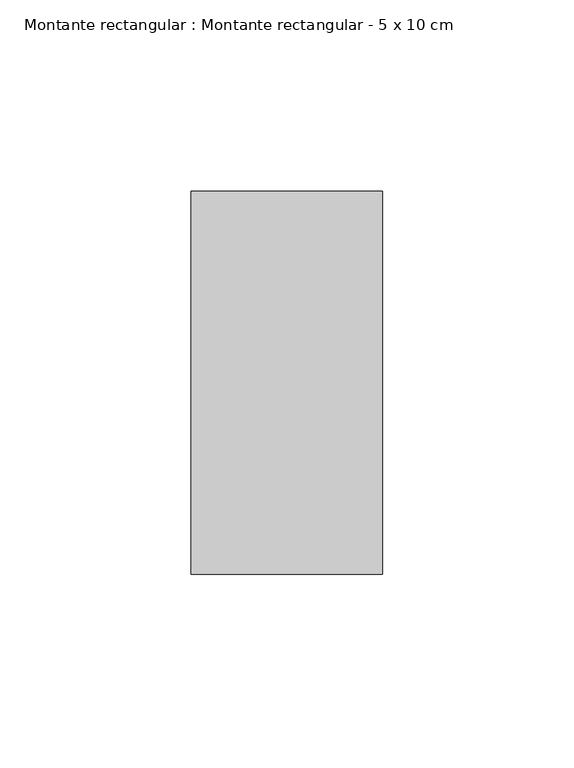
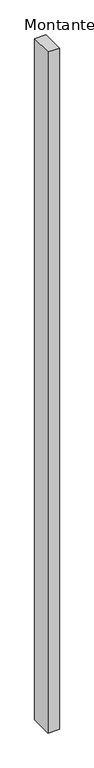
"""IFC4 building model written with IfcOpenShell, lengths in millimetres: member geometry, Montante rectangular : Montante rectangular - 5 x 10 cm."""

from ifc_helpers import new_model, si_unit, frame, origin, place, context, project, spatial, polyline, outline, extrude, source, transform, mapped, element, save


def montante_rectangular_montante_rectangular_5_x_10_cm_89af3980(model_context):
    return source(origin(), model_context, "Body", "SweptSolid", [
        extrude(outline(polyline([(-50.0, 50.0), (0.0, 50.0), (0.0, -50.0), (-50.0, -50.0), (-50.0, 50.0)])), frame((0.0, 0.0, -3150.0), z_axis=(0.0, 0.0, 1.0), x_axis=(1.0, 0.0, 0.0)), (0.0, 0.0, 1.0), 3150.0),
    ])


if __name__ == "__main__":
    model = new_model("IFC4")
    model_context = context("Model", 3, world=origin())
    ifc_project = project(units=[si_unit("LENGTHUNIT", "METRE", prefix="MILLI")], contexts=[model_context])
    site = spatial("IfcSite", under=ifc_project)
    building = spatial("IfcBuilding", under=site)
    placement = place(None, origin())
    montante_rectangular_montante_rectangular_5_x_10_cm_shape = montante_rectangular_montante_rectangular_5_x_10_cm_89af3980(model_context)
    element("IfcMember", 1, ObjectType="Montante rectangular : Montante rectangular - 5 x 10 cm", at=placement, inside=building, context=model_context, shape_type="MappedRepresentation", body=[
        mapped(montante_rectangular_montante_rectangular_5_x_10_cm_shape, transform((0.0, 0.0, 0.0), x_axis=(1.0, 0.0, 0.0), y_axis=(0.0, 1.0, 0.0), z_axis=(0.0, 0.0, 1.0))),
    ])
    save(model, "model.ifc")
